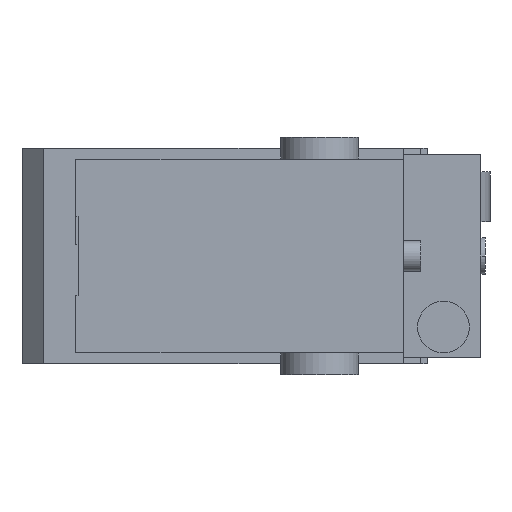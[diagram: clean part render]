
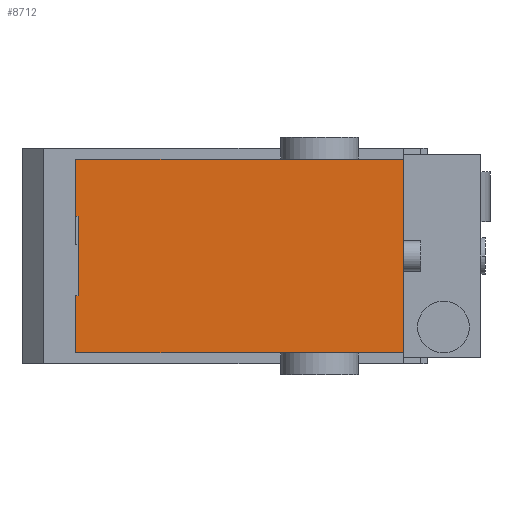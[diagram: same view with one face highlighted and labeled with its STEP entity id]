
A CAD part, front view. The second image highlights one B-rep face of the part: STEP entity #8712.
In plain terms, the highlighted planar face has unit normal (0, -1, 0).
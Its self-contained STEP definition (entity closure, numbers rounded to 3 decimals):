
#307 = DIRECTION ( 'NONE',  ( -1., 0., 0. ) ) ;
#727 = CARTESIAN_POINT ( 'NONE',  ( -34.5, -184., -9.25 ) ) ;
#729 = ORIENTED_EDGE ( 'NONE', *, *, #11552, .F. ) ;
#890 = ORIENTED_EDGE ( 'NONE', *, *, #1862, .F. ) ;
#1149 = VERTEX_POINT ( 'NONE', #8682 ) ;
#1435 = DIRECTION ( 'NONE',  ( -1., 0., 0. ) ) ;
#1562 = CARTESIAN_POINT ( 'NONE',  ( 41.5, -184., -22.5 ) ) ;
#1862 = EDGE_CURVE ( 'NONE', #12210, #1931, #3810, .T. ) ;
#1931 = VERTEX_POINT ( 'NONE', #7451 ) ;
#2214 = VECTOR ( 'NONE', #1435, 1000. ) ;
#2453 = VERTEX_POINT ( 'NONE', #10695 ) ;
#2475 = LINE ( 'NONE', #9381, #12537 ) ;
#2620 = CARTESIAN_POINT ( 'NONE',  ( 41.5, -184., -22.5 ) ) ;
#2889 = EDGE_CURVE ( 'NONE', #1149, #11847, #8169, .T. ) ;
#3091 = CARTESIAN_POINT ( 'NONE',  ( -34., -184., -9.25 ) ) ;
#3126 = CARTESIAN_POINT ( 'NONE',  ( -34.5, -184., 22.5 ) ) ;
#3215 = DIRECTION ( 'NONE',  ( 0., 0., 1. ) ) ;
#3810 = LINE ( 'NONE', #7323, #9455 ) ;
#3985 = VECTOR ( 'NONE', #4102, 1000. ) ;
#4102 = DIRECTION ( 'NONE',  ( 0., 0., 1. ) ) ;
#4271 = CARTESIAN_POINT ( 'NONE',  ( 41.5, -184., 22.5 ) ) ;
#4356 = LINE ( 'NONE', #4738, #6372 ) ;
#4738 = CARTESIAN_POINT ( 'NONE',  ( -34.5, -184., -9.25 ) ) ;
#4944 = ORIENTED_EDGE ( 'NONE', *, *, #2889, .F. ) ;
#5115 = VERTEX_POINT ( 'NONE', #11800 ) ;
#5138 = FACE_OUTER_BOUND ( 'NONE', #8215, .T. ) ;
#5309 = VECTOR ( 'NONE', #5556, 1000. ) ;
#5556 = DIRECTION ( 'NONE',  ( 0., 0., -1. ) ) ;
#5616 = LINE ( 'NONE', #2620, #5309 ) ;
#5723 = ORIENTED_EDGE ( 'NONE', *, *, #12735, .F. ) ;
#5778 = EDGE_CURVE ( 'NONE', #5115, #12210, #6655, .T. ) ;
#6138 = LINE ( 'NONE', #3126, #9124 ) ;
#6189 = PLANE ( 'NONE',  #12833 ) ;
#6372 = VECTOR ( 'NONE', #12753, 1000. ) ;
#6655 = LINE ( 'NONE', #3091, #3985 ) ;
#6863 = ORIENTED_EDGE ( 'NONE', *, *, #12514, .F. ) ;
#7005 = CARTESIAN_POINT ( 'NONE',  ( -34.5, -184., -22.5 ) ) ;
#7323 = CARTESIAN_POINT ( 'NONE',  ( -34.5, -184., 9.25 ) ) ;
#7451 = CARTESIAN_POINT ( 'NONE',  ( -34.5, -184., 9.25 ) ) ;
#7469 = CARTESIAN_POINT ( 'NONE',  ( -34.5, -184., -22.5 ) ) ;
#7530 = CARTESIAN_POINT ( 'NONE',  ( -34., -184., 9.25 ) ) ;
#8005 = DIRECTION ( 'NONE',  ( 0., 0., 1. ) ) ;
#8169 = LINE ( 'NONE', #7005, #12896 ) ;
#8196 = CARTESIAN_POINT ( 'NONE',  ( 3.5, -184., 0. ) ) ;
#8215 = EDGE_LOOP ( 'NONE', ( #4944, #5723, #12497, #6863, #729, #890, #11203, #9160 ) ) ;
#8682 = CARTESIAN_POINT ( 'NONE',  ( -34.5, -184., -22.5 ) ) ;
#8712 = ADVANCED_FACE ( 'NONE', ( #5138 ), #6189, .F. ) ;
#9124 = VECTOR ( 'NONE', #10137, 1000. ) ;
#9160 = ORIENTED_EDGE ( 'NONE', *, *, #12310, .F. ) ;
#9219 = DIRECTION ( 'NONE',  ( 0., 1., 0. ) ) ;
#9277 = LINE ( 'NONE', #7469, #2214 ) ;
#9381 = CARTESIAN_POINT ( 'NONE',  ( -34.5, -184., 9.25 ) ) ;
#9455 = VECTOR ( 'NONE', #307, 1000. ) ;
#10078 = VERTEX_POINT ( 'NONE', #1562 ) ;
#10137 = DIRECTION ( 'NONE',  ( 1., 0., 0. ) ) ;
#10376 = DIRECTION ( 'NONE',  ( 0., 0., 1. ) ) ;
#10695 = CARTESIAN_POINT ( 'NONE',  ( -34.5, -184., 22.5 ) ) ;
#11203 = ORIENTED_EDGE ( 'NONE', *, *, #5778, .F. ) ;
#11552 = EDGE_CURVE ( 'NONE', #1931, #2453, #2475, .T. ) ;
#11770 = EDGE_CURVE ( 'NONE', #12640, #10078, #5616, .T. ) ;
#11800 = CARTESIAN_POINT ( 'NONE',  ( -34., -184., -9.25 ) ) ;
#11847 = VERTEX_POINT ( 'NONE', #727 ) ;
#12210 = VERTEX_POINT ( 'NONE', #7530 ) ;
#12310 = EDGE_CURVE ( 'NONE', #11847, #5115, #4356, .T. ) ;
#12497 = ORIENTED_EDGE ( 'NONE', *, *, #11770, .F. ) ;
#12514 = EDGE_CURVE ( 'NONE', #2453, #12640, #6138, .T. ) ;
#12537 = VECTOR ( 'NONE', #10376, 1000. ) ;
#12640 = VERTEX_POINT ( 'NONE', #4271 ) ;
#12735 = EDGE_CURVE ( 'NONE', #10078, #1149, #9277, .T. ) ;
#12753 = DIRECTION ( 'NONE',  ( 1., 0., 0. ) ) ;
#12833 = AXIS2_PLACEMENT_3D ( 'NONE', #8196, #9219, #3215 ) ;
#12896 = VECTOR ( 'NONE', #8005, 1000. ) ;
